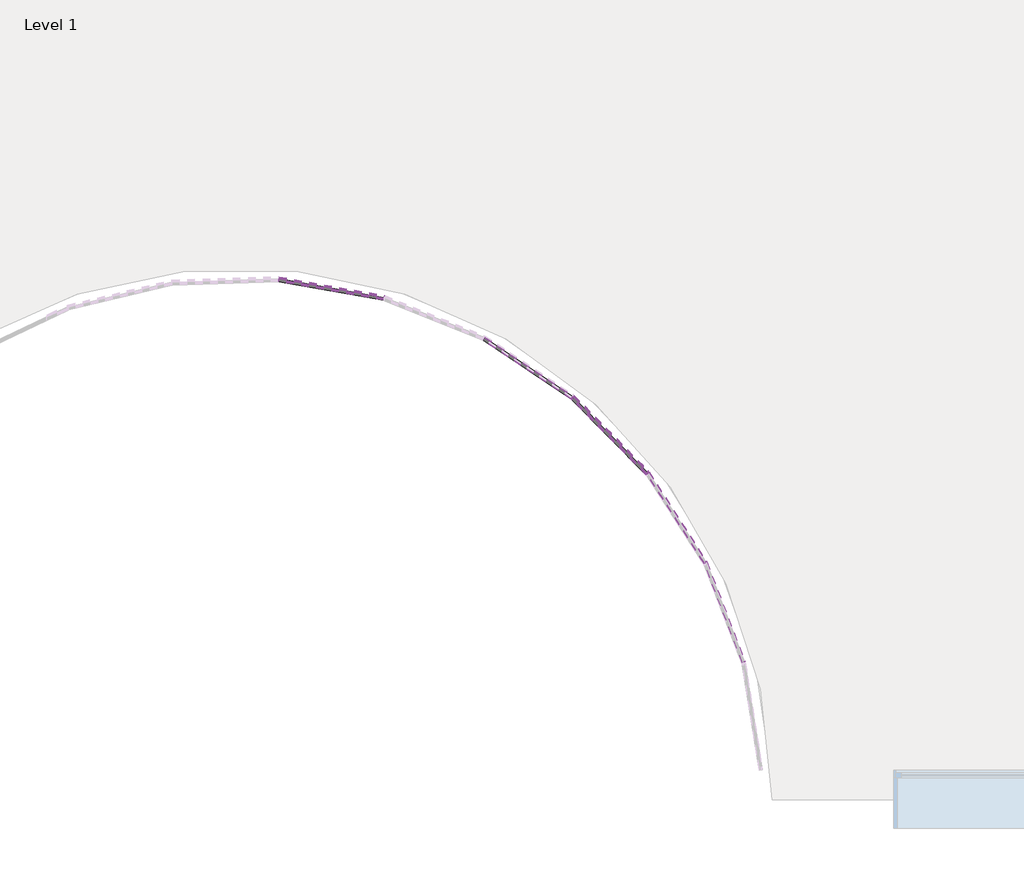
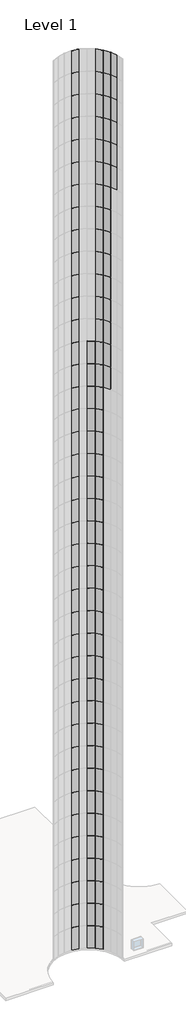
# One storey, part 9 of 19: 128 plates.
"""IFC4 building model written with IfcOpenShell, lengths in millimetres."""

from ifc_helpers import new_model, si_unit, origin, place, context, project, spatial, transform, mapped, element, save
from components import system_panel_glazed_d77d1ebf

model = new_model("IFC4")

# Units and contexts
model_context = context("Model", 3, world=origin())
ifc_project = project(units=[si_unit("LENGTHUNIT", "METRE", prefix="MILLI")], contexts=[model_context])

# Site, building, storey
site = spatial("IfcSite", under=ifc_project)
building = spatial("IfcBuilding", under=site)
storey = spatial("IfcBuildingStorey", under=building, Name="Level 1", Elevation=0.0)

# Plates
placement = place(None, origin())
system_panel_glazed_shape = system_panel_glazed_d77d1ebf(model_context)
element("IfcPlate", 1, ObjectType="System Panel : Glazed", at=placement, inside=storey, context=model_context, shape_type="MappedRepresentation", body=[
    mapped(system_panel_glazed_shape, transform((7239.747729, -19036.0319834, 76200.0), x_axis=(-0.5406806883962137, 0.8412279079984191, 0.0), y_axis=(-0.8412279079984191, -0.5406806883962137, 0.0), z_axis=(0.0, 0.0, 1.0))),
])
element("IfcPlate", 2, ObjectType="System Panel : Glazed", at=placement, inside=storey, context=model_context, shape_type="MappedRepresentation", body=[
    mapped(system_panel_glazed_shape, transform((7239.747729, -19036.0319834, 79248.0), x_axis=(-0.5406806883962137, 0.8412279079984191, 0.0), y_axis=(-0.8412279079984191, -0.5406806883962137, 0.0), z_axis=(0.0, 0.0, 1.0))),
])
element("IfcPlate", 3, ObjectType="System Panel : Glazed", at=placement, inside=storey, context=model_context, shape_type="MappedRepresentation", body=[
    mapped(system_panel_glazed_shape, transform((7239.747729, -19036.0319834, 82296.0), x_axis=(-0.5406806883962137, 0.8412279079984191, 0.0), y_axis=(-0.8412279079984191, -0.5406806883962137, 0.0), z_axis=(0.0, 0.0, 1.0))),
])
element("IfcPlate", 4, ObjectType="System Panel : Glazed", at=placement, inside=storey, context=model_context, shape_type="MappedRepresentation", body=[
    mapped(system_panel_glazed_shape, transform((7239.747729, -19036.0319834, 85344.0), x_axis=(-0.5406806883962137, 0.8412279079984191, 0.0), y_axis=(-0.8412279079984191, -0.5406806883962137, 0.0), z_axis=(0.0, 0.0, 1.0))),
])
element("IfcPlate", 5, ObjectType="System Panel : Glazed", at=placement, inside=storey, context=model_context, shape_type="MappedRepresentation", body=[
    mapped(system_panel_glazed_shape, transform((7239.747729, -19036.0319834, 88392.0), x_axis=(-0.5406806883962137, 0.8412279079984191, 0.0), y_axis=(-0.8412279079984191, -0.5406806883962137, 0.0), z_axis=(0.0, 0.0, 1.0))),
])
element("IfcPlate", 6, ObjectType="System Panel : Glazed", at=placement, inside=storey, context=model_context, shape_type="MappedRepresentation", body=[
    mapped(system_panel_glazed_shape, transform((7239.747729, -19036.0319834, 91440.0), x_axis=(-0.5406806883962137, 0.8412279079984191, 0.0), y_axis=(-0.8412279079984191, -0.5406806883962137, 0.0), z_axis=(0.0, 0.0, 1.0))),
])
element("IfcPlate", 7, ObjectType="System Panel : Glazed", at=placement, inside=storey, context=model_context, shape_type="MappedRepresentation", body=[
    mapped(system_panel_glazed_shape, transform((7239.747729, -19036.0319834, 94488.0), x_axis=(-0.5406806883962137, 0.8412279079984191, 0.0), y_axis=(-0.8412279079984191, -0.5406806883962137, 0.0), z_axis=(0.0, 0.0, 1.0))),
])
element("IfcPlate", 8, ObjectType="System Panel : Glazed", at=placement, inside=storey, context=model_context, shape_type="MappedRepresentation", body=[
    mapped(system_panel_glazed_shape, transform((7239.747729, -19036.0319834, 97536.0), x_axis=(-0.5406806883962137, 0.8412279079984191, 0.0), y_axis=(-0.8412279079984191, -0.5406806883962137, 0.0), z_axis=(0.0, 0.0, 1.0))),
])
element("IfcPlate", 9, ObjectType="System Panel : Glazed", at=placement, inside=storey, context=model_context, shape_type="MappedRepresentation", body=[
    mapped(system_panel_glazed_shape, transform((7239.747729, -19036.0319834, 100584.0), x_axis=(-0.5406806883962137, 0.8412279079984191, 0.0), y_axis=(-0.8412279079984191, -0.5406806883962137, 0.0), z_axis=(0.0, 0.0, 1.0))),
])
element("IfcPlate", 10, ObjectType="System Panel : Glazed", at=placement, inside=storey, context=model_context, shape_type="MappedRepresentation", body=[
    mapped(system_panel_glazed_shape, transform((6671.9279427, -18325.4865679, 0.0), x_axis=(-0.7012698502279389, 0.7128959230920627, 0.0), y_axis=(-0.7128959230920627, -0.7012698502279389, 0.0), z_axis=(0.0, 0.0, 1.0))),
])
element("IfcPlate", 11, ObjectType="System Panel : Glazed", at=placement, inside=storey, context=model_context, shape_type="MappedRepresentation", body=[
    mapped(system_panel_glazed_shape, transform((6671.9279427, -18325.4865679, 3048.0), x_axis=(-0.7012698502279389, 0.7128959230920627, 0.0), y_axis=(-0.7128959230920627, -0.7012698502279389, 0.0), z_axis=(0.0, 0.0, 1.0))),
])
element("IfcPlate", 12, ObjectType="System Panel : Glazed", at=placement, inside=storey, context=model_context, shape_type="MappedRepresentation", body=[
    mapped(system_panel_glazed_shape, transform((6671.9279427, -18325.4865679, 6096.0), x_axis=(-0.7012698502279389, 0.7128959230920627, 0.0), y_axis=(-0.7128959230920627, -0.7012698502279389, 0.0), z_axis=(0.0, 0.0, 1.0))),
])
element("IfcPlate", 13, ObjectType="System Panel : Glazed", at=placement, inside=storey, context=model_context, shape_type="MappedRepresentation", body=[
    mapped(system_panel_glazed_shape, transform((6671.9279427, -18325.4865679, 9144.0), x_axis=(-0.7012698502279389, 0.7128959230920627, 0.0), y_axis=(-0.7128959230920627, -0.7012698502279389, 0.0), z_axis=(0.0, 0.0, 1.0))),
])
element("IfcPlate", 14, ObjectType="System Panel : Glazed", at=placement, inside=storey, context=model_context, shape_type="MappedRepresentation", body=[
    mapped(system_panel_glazed_shape, transform((6671.9279427, -18325.4865679, 12192.0), x_axis=(-0.7012698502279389, 0.7128959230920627, 0.0), y_axis=(-0.7128959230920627, -0.7012698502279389, 0.0), z_axis=(0.0, 0.0, 1.0))),
])
element("IfcPlate", 15, ObjectType="System Panel : Glazed", at=placement, inside=storey, context=model_context, shape_type="MappedRepresentation", body=[
    mapped(system_panel_glazed_shape, transform((6671.9279427, -18325.4865679, 15240.0), x_axis=(-0.7012698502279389, 0.7128959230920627, 0.0), y_axis=(-0.7128959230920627, -0.7012698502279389, 0.0), z_axis=(0.0, 0.0, 1.0))),
])
element("IfcPlate", 16, ObjectType="System Panel : Glazed", at=placement, inside=storey, context=model_context, shape_type="MappedRepresentation", body=[
    mapped(system_panel_glazed_shape, transform((6671.9279427, -18325.4865679, 18288.0), x_axis=(-0.7012698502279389, 0.7128959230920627, 0.0), y_axis=(-0.7128959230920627, -0.7012698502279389, 0.0), z_axis=(0.0, 0.0, 1.0))),
])
element("IfcPlate", 17, ObjectType="System Panel : Glazed", at=placement, inside=storey, context=model_context, shape_type="MappedRepresentation", body=[
    mapped(system_panel_glazed_shape, transform((6671.9279427, -18325.4865679, 21336.0), x_axis=(-0.7012698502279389, 0.7128959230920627, 0.0), y_axis=(-0.7128959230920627, -0.7012698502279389, 0.0), z_axis=(0.0, 0.0, 1.0))),
])
element("IfcPlate", 18, ObjectType="System Panel : Glazed", at=placement, inside=storey, context=model_context, shape_type="MappedRepresentation", body=[
    mapped(system_panel_glazed_shape, transform((6671.9279427, -18325.4865679, 24384.0), x_axis=(-0.7012698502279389, 0.7128959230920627, 0.0), y_axis=(-0.7128959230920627, -0.7012698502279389, 0.0), z_axis=(0.0, 0.0, 1.0))),
])
element("IfcPlate", 19, ObjectType="System Panel : Glazed", at=placement, inside=storey, context=model_context, shape_type="MappedRepresentation", body=[
    mapped(system_panel_glazed_shape, transform((6671.9279427, -18325.4865679, 27432.0), x_axis=(-0.7012698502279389, 0.7128959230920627, 0.0), y_axis=(-0.7128959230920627, -0.7012698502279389, 0.0), z_axis=(0.0, 0.0, 1.0))),
])
element("IfcPlate", 20, ObjectType="System Panel : Glazed", at=placement, inside=storey, context=model_context, shape_type="MappedRepresentation", body=[
    mapped(system_panel_glazed_shape, transform((6671.9279427, -18325.4865679, 30480.0), x_axis=(-0.7012698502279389, 0.7128959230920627, 0.0), y_axis=(-0.7128959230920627, -0.7012698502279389, 0.0), z_axis=(0.0, 0.0, 1.0))),
])
element("IfcPlate", 21, ObjectType="System Panel : Glazed", at=placement, inside=storey, context=model_context, shape_type="MappedRepresentation", body=[
    mapped(system_panel_glazed_shape, transform((6671.9279427, -18325.4865679, 33528.0), x_axis=(-0.7012698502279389, 0.7128959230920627, 0.0), y_axis=(-0.7128959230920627, -0.7012698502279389, 0.0), z_axis=(0.0, 0.0, 1.0))),
])
element("IfcPlate", 22, ObjectType="System Panel : Glazed", at=placement, inside=storey, context=model_context, shape_type="MappedRepresentation", body=[
    mapped(system_panel_glazed_shape, transform((6671.9279427, -18325.4865679, 36576.0), x_axis=(-0.7012698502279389, 0.7128959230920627, 0.0), y_axis=(-0.7128959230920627, -0.7012698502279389, 0.0), z_axis=(0.0, 0.0, 1.0))),
])
element("IfcPlate", 23, ObjectType="System Panel : Glazed", at=placement, inside=storey, context=model_context, shape_type="MappedRepresentation", body=[
    mapped(system_panel_glazed_shape, transform((6671.9279427, -18325.4865679, 39624.0), x_axis=(-0.7012698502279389, 0.7128959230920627, 0.0), y_axis=(-0.7128959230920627, -0.7012698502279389, 0.0), z_axis=(0.0, 0.0, 1.0))),
])
element("IfcPlate", 24, ObjectType="System Panel : Glazed", at=placement, inside=storey, context=model_context, shape_type="MappedRepresentation", body=[
    mapped(system_panel_glazed_shape, transform((6671.9279427, -18325.4865679, 42672.0), x_axis=(-0.7012698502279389, 0.7128959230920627, 0.0), y_axis=(-0.7128959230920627, -0.7012698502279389, 0.0), z_axis=(0.0, 0.0, 1.0))),
])
element("IfcPlate", 25, ObjectType="System Panel : Glazed", at=placement, inside=storey, context=model_context, shape_type="MappedRepresentation", body=[
    mapped(system_panel_glazed_shape, transform((6671.9279427, -18325.4865679, 45720.0), x_axis=(-0.7012698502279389, 0.7128959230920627, 0.0), y_axis=(-0.7128959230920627, -0.7012698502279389, 0.0), z_axis=(0.0, 0.0, 1.0))),
])
element("IfcPlate", 26, ObjectType="System Panel : Glazed", at=placement, inside=storey, context=model_context, shape_type="MappedRepresentation", body=[
    mapped(system_panel_glazed_shape, transform((6671.9279427, -18325.4865679, 48768.0), x_axis=(-0.7012698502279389, 0.7128959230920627, 0.0), y_axis=(-0.7128959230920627, -0.7012698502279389, 0.0), z_axis=(0.0, 0.0, 1.0))),
])
element("IfcPlate", 27, ObjectType="System Panel : Glazed", at=placement, inside=storey, context=model_context, shape_type="MappedRepresentation", body=[
    mapped(system_panel_glazed_shape, transform((6671.9279427, -18325.4865679, 51816.0), x_axis=(-0.7012698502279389, 0.7128959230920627, 0.0), y_axis=(-0.7128959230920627, -0.7012698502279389, 0.0), z_axis=(0.0, 0.0, 1.0))),
])
element("IfcPlate", 28, ObjectType="System Panel : Glazed", at=placement, inside=storey, context=model_context, shape_type="MappedRepresentation", body=[
    mapped(system_panel_glazed_shape, transform((6671.9279427, -18325.4865679, 54864.0), x_axis=(-0.7012698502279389, 0.7128959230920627, 0.0), y_axis=(-0.7128959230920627, -0.7012698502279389, 0.0), z_axis=(0.0, 0.0, 1.0))),
])
element("IfcPlate", 29, ObjectType="System Panel : Glazed", at=placement, inside=storey, context=model_context, shape_type="MappedRepresentation", body=[
    mapped(system_panel_glazed_shape, transform((6671.9279427, -18325.4865679, 57912.0), x_axis=(-0.7012698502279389, 0.7128959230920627, 0.0), y_axis=(-0.7128959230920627, -0.7012698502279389, 0.0), z_axis=(0.0, 0.0, 1.0))),
])
element("IfcPlate", 30, ObjectType="System Panel : Glazed", at=placement, inside=storey, context=model_context, shape_type="MappedRepresentation", body=[
    mapped(system_panel_glazed_shape, transform((6671.9279427, -18325.4865679, 60960.0), x_axis=(-0.7012698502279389, 0.7128959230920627, 0.0), y_axis=(-0.7128959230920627, -0.7012698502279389, 0.0), z_axis=(0.0, 0.0, 1.0))),
])
element("IfcPlate", 31, ObjectType="System Panel : Glazed", at=placement, inside=storey, context=model_context, shape_type="MappedRepresentation", body=[
    mapped(system_panel_glazed_shape, transform((6671.9279427, -18325.4865679, 64008.0), x_axis=(-0.7012698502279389, 0.7128959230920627, 0.0), y_axis=(-0.7128959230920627, -0.7012698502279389, 0.0), z_axis=(0.0, 0.0, 1.0))),
])
element("IfcPlate", 32, ObjectType="System Panel : Glazed", at=placement, inside=storey, context=model_context, shape_type="MappedRepresentation", body=[
    mapped(system_panel_glazed_shape, transform((6671.9279427, -18325.4865679, 67056.0), x_axis=(-0.7012698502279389, 0.7128959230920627, 0.0), y_axis=(-0.7128959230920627, -0.7012698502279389, 0.0), z_axis=(0.0, 0.0, 1.0))),
])
element("IfcPlate", 33, ObjectType="System Panel : Glazed", at=placement, inside=storey, context=model_context, shape_type="MappedRepresentation", body=[
    mapped(system_panel_glazed_shape, transform((6671.9279427, -18325.4865679, 70104.0), x_axis=(-0.7012698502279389, 0.7128959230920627, 0.0), y_axis=(-0.7128959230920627, -0.7012698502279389, 0.0), z_axis=(0.0, 0.0, 1.0))),
])
element("IfcPlate", 34, ObjectType="System Panel : Glazed", at=placement, inside=storey, context=model_context, shape_type="MappedRepresentation", body=[
    mapped(system_panel_glazed_shape, transform((6671.9279427, -18325.4865679, 73152.0), x_axis=(-0.7012698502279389, 0.7128959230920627, 0.0), y_axis=(-0.7128959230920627, -0.7012698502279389, 0.0), z_axis=(0.0, 0.0, 1.0))),
])
element("IfcPlate", 35, ObjectType="System Panel : Glazed", at=placement, inside=storey, context=model_context, shape_type="MappedRepresentation", body=[
    mapped(system_panel_glazed_shape, transform((6671.9279427, -18325.4865679, 76200.0), x_axis=(-0.7012698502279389, 0.7128959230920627, 0.0), y_axis=(-0.7128959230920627, -0.7012698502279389, 0.0), z_axis=(0.0, 0.0, 1.0))),
])
element("IfcPlate", 36, ObjectType="System Panel : Glazed", at=placement, inside=storey, context=model_context, shape_type="MappedRepresentation", body=[
    mapped(system_panel_glazed_shape, transform((6671.9279427, -18325.4865679, 79248.0), x_axis=(-0.7012698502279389, 0.7128959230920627, 0.0), y_axis=(-0.7128959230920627, -0.7012698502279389, 0.0), z_axis=(0.0, 0.0, 1.0))),
])
element("IfcPlate", 37, ObjectType="System Panel : Glazed", at=placement, inside=storey, context=model_context, shape_type="MappedRepresentation", body=[
    mapped(system_panel_glazed_shape, transform((6671.9279427, -18325.4865679, 82296.0), x_axis=(-0.7012698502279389, 0.7128959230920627, 0.0), y_axis=(-0.7128959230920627, -0.7012698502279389, 0.0), z_axis=(0.0, 0.0, 1.0))),
])
element("IfcPlate", 38, ObjectType="System Panel : Glazed", at=placement, inside=storey, context=model_context, shape_type="MappedRepresentation", body=[
    mapped(system_panel_glazed_shape, transform((6671.9279427, -18325.4865679, 85344.0), x_axis=(-0.7012698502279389, 0.7128959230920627, 0.0), y_axis=(-0.7128959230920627, -0.7012698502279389, 0.0), z_axis=(0.0, 0.0, 1.0))),
])
element("IfcPlate", 39, ObjectType="System Panel : Glazed", at=placement, inside=storey, context=model_context, shape_type="MappedRepresentation", body=[
    mapped(system_panel_glazed_shape, transform((6671.9279427, -18325.4865679, 88392.0), x_axis=(-0.7012698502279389, 0.7128959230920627, 0.0), y_axis=(-0.7128959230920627, -0.7012698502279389, 0.0), z_axis=(0.0, 0.0, 1.0))),
])
element("IfcPlate", 40, ObjectType="System Panel : Glazed", at=placement, inside=storey, context=model_context, shape_type="MappedRepresentation", body=[
    mapped(system_panel_glazed_shape, transform((6671.9279427, -18325.4865679, 91440.0), x_axis=(-0.7012698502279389, 0.7128959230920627, 0.0), y_axis=(-0.7128959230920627, -0.7012698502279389, 0.0), z_axis=(0.0, 0.0, 1.0))),
])
element("IfcPlate", 41, ObjectType="System Panel : Glazed", at=placement, inside=storey, context=model_context, shape_type="MappedRepresentation", body=[
    mapped(system_panel_glazed_shape, transform((6671.9279427, -18325.4865679, 94488.0), x_axis=(-0.7012698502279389, 0.7128959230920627, 0.0), y_axis=(-0.7128959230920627, -0.7012698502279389, 0.0), z_axis=(0.0, 0.0, 1.0))),
])
element("IfcPlate", 42, ObjectType="System Panel : Glazed", at=placement, inside=storey, context=model_context, shape_type="MappedRepresentation", body=[
    mapped(system_panel_glazed_shape, transform((6671.9279427, -18325.4865679, 97536.0), x_axis=(-0.7012698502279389, 0.7128959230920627, 0.0), y_axis=(-0.7128959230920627, -0.7012698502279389, 0.0), z_axis=(0.0, 0.0, 1.0))),
])
element("IfcPlate", 43, ObjectType="System Panel : Glazed", at=placement, inside=storey, context=model_context, shape_type="MappedRepresentation", body=[
    mapped(system_panel_glazed_shape, transform((6671.9279427, -18325.4865679, 100584.0), x_axis=(-0.7012698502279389, 0.7128959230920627, 0.0), y_axis=(-0.7128959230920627, -0.7012698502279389, 0.0), z_axis=(0.0, 0.0, 1.0))),
])
element("IfcPlate", 44, ObjectType="System Panel : Glazed", at=placement, inside=storey, context=model_context, shape_type="MappedRepresentation", body=[
    mapped(system_panel_glazed_shape, transform((5970.8142039, -17746.061316, 0.0), x_axis=(-0.8322247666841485, 0.5544383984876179, 0.0), y_axis=(-0.5544383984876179, -0.8322247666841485, 0.0), z_axis=(0.0, 0.0, 1.0))),
])
element("IfcPlate", 45, ObjectType="System Panel : Glazed", at=placement, inside=storey, context=model_context, shape_type="MappedRepresentation", body=[
    mapped(system_panel_glazed_shape, transform((5970.8142039, -17746.061316, 3048.0), x_axis=(-0.8322247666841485, 0.5544383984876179, 0.0), y_axis=(-0.5544383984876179, -0.8322247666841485, 0.0), z_axis=(0.0, 0.0, 1.0))),
])
element("IfcPlate", 46, ObjectType="System Panel : Glazed", at=placement, inside=storey, context=model_context, shape_type="MappedRepresentation", body=[
    mapped(system_panel_glazed_shape, transform((5970.8142039, -17746.061316, 6096.0), x_axis=(-0.8322247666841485, 0.5544383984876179, 0.0), y_axis=(-0.5544383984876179, -0.8322247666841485, 0.0), z_axis=(0.0, 0.0, 1.0))),
])
element("IfcPlate", 47, ObjectType="System Panel : Glazed", at=placement, inside=storey, context=model_context, shape_type="MappedRepresentation", body=[
    mapped(system_panel_glazed_shape, transform((5970.8142039, -17746.061316, 9144.0), x_axis=(-0.8322247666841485, 0.5544383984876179, 0.0), y_axis=(-0.5544383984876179, -0.8322247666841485, 0.0), z_axis=(0.0, 0.0, 1.0))),
])
element("IfcPlate", 48, ObjectType="System Panel : Glazed", at=placement, inside=storey, context=model_context, shape_type="MappedRepresentation", body=[
    mapped(system_panel_glazed_shape, transform((5970.8142039, -17746.061316, 12192.0), x_axis=(-0.8322247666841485, 0.5544383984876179, 0.0), y_axis=(-0.5544383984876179, -0.8322247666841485, 0.0), z_axis=(0.0, 0.0, 1.0))),
])
element("IfcPlate", 49, ObjectType="System Panel : Glazed", at=placement, inside=storey, context=model_context, shape_type="MappedRepresentation", body=[
    mapped(system_panel_glazed_shape, transform((5970.8142039, -17746.061316, 15240.0), x_axis=(-0.8322247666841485, 0.5544383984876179, 0.0), y_axis=(-0.5544383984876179, -0.8322247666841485, 0.0), z_axis=(0.0, 0.0, 1.0))),
])
element("IfcPlate", 50, ObjectType="System Panel : Glazed", at=placement, inside=storey, context=model_context, shape_type="MappedRepresentation", body=[
    mapped(system_panel_glazed_shape, transform((5970.8142039, -17746.061316, 18288.0), x_axis=(-0.8322247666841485, 0.5544383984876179, 0.0), y_axis=(-0.5544383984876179, -0.8322247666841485, 0.0), z_axis=(0.0, 0.0, 1.0))),
])
element("IfcPlate", 51, ObjectType="System Panel : Glazed", at=placement, inside=storey, context=model_context, shape_type="MappedRepresentation", body=[
    mapped(system_panel_glazed_shape, transform((5970.8142039, -17746.061316, 21336.0), x_axis=(-0.8322247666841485, 0.5544383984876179, 0.0), y_axis=(-0.5544383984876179, -0.8322247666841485, 0.0), z_axis=(0.0, 0.0, 1.0))),
])
element("IfcPlate", 52, ObjectType="System Panel : Glazed", at=placement, inside=storey, context=model_context, shape_type="MappedRepresentation", body=[
    mapped(system_panel_glazed_shape, transform((5970.8142039, -17746.061316, 24384.0), x_axis=(-0.8322247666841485, 0.5544383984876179, 0.0), y_axis=(-0.5544383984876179, -0.8322247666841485, 0.0), z_axis=(0.0, 0.0, 1.0))),
])
element("IfcPlate", 53, ObjectType="System Panel : Glazed", at=placement, inside=storey, context=model_context, shape_type="MappedRepresentation", body=[
    mapped(system_panel_glazed_shape, transform((5970.8142039, -17746.061316, 27432.0), x_axis=(-0.8322247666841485, 0.5544383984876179, 0.0), y_axis=(-0.5544383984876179, -0.8322247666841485, 0.0), z_axis=(0.0, 0.0, 1.0))),
])
element("IfcPlate", 54, ObjectType="System Panel : Glazed", at=placement, inside=storey, context=model_context, shape_type="MappedRepresentation", body=[
    mapped(system_panel_glazed_shape, transform((5970.8142039, -17746.061316, 30480.0), x_axis=(-0.8322247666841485, 0.5544383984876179, 0.0), y_axis=(-0.5544383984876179, -0.8322247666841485, 0.0), z_axis=(0.0, 0.0, 1.0))),
])
element("IfcPlate", 55, ObjectType="System Panel : Glazed", at=placement, inside=storey, context=model_context, shape_type="MappedRepresentation", body=[
    mapped(system_panel_glazed_shape, transform((5970.8142039, -17746.061316, 33528.0), x_axis=(-0.8322247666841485, 0.5544383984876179, 0.0), y_axis=(-0.5544383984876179, -0.8322247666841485, 0.0), z_axis=(0.0, 0.0, 1.0))),
])
element("IfcPlate", 56, ObjectType="System Panel : Glazed", at=placement, inside=storey, context=model_context, shape_type="MappedRepresentation", body=[
    mapped(system_panel_glazed_shape, transform((5970.8142039, -17746.061316, 36576.0), x_axis=(-0.8322247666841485, 0.5544383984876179, 0.0), y_axis=(-0.5544383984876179, -0.8322247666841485, 0.0), z_axis=(0.0, 0.0, 1.0))),
])
element("IfcPlate", 57, ObjectType="System Panel : Glazed", at=placement, inside=storey, context=model_context, shape_type="MappedRepresentation", body=[
    mapped(system_panel_glazed_shape, transform((5970.8142039, -17746.061316, 39624.0), x_axis=(-0.8322247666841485, 0.5544383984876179, 0.0), y_axis=(-0.5544383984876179, -0.8322247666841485, 0.0), z_axis=(0.0, 0.0, 1.0))),
])
element("IfcPlate", 58, ObjectType="System Panel : Glazed", at=placement, inside=storey, context=model_context, shape_type="MappedRepresentation", body=[
    mapped(system_panel_glazed_shape, transform((5970.8142039, -17746.061316, 42672.0), x_axis=(-0.8322247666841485, 0.5544383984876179, 0.0), y_axis=(-0.5544383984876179, -0.8322247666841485, 0.0), z_axis=(0.0, 0.0, 1.0))),
])
element("IfcPlate", 59, ObjectType="System Panel : Glazed", at=placement, inside=storey, context=model_context, shape_type="MappedRepresentation", body=[
    mapped(system_panel_glazed_shape, transform((5970.8142039, -17746.061316, 45720.0), x_axis=(-0.8322247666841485, 0.5544383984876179, 0.0), y_axis=(-0.5544383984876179, -0.8322247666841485, 0.0), z_axis=(0.0, 0.0, 1.0))),
])
element("IfcPlate", 60, ObjectType="System Panel : Glazed", at=placement, inside=storey, context=model_context, shape_type="MappedRepresentation", body=[
    mapped(system_panel_glazed_shape, transform((5970.8142039, -17746.061316, 48768.0), x_axis=(-0.8322247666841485, 0.5544383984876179, 0.0), y_axis=(-0.5544383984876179, -0.8322247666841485, 0.0), z_axis=(0.0, 0.0, 1.0))),
])
element("IfcPlate", 61, ObjectType="System Panel : Glazed", at=placement, inside=storey, context=model_context, shape_type="MappedRepresentation", body=[
    mapped(system_panel_glazed_shape, transform((5970.8142039, -17746.061316, 51816.0), x_axis=(-0.8322247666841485, 0.5544383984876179, 0.0), y_axis=(-0.5544383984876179, -0.8322247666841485, 0.0), z_axis=(0.0, 0.0, 1.0))),
])
element("IfcPlate", 62, ObjectType="System Panel : Glazed", at=placement, inside=storey, context=model_context, shape_type="MappedRepresentation", body=[
    mapped(system_panel_glazed_shape, transform((5970.8142039, -17746.061316, 54864.0), x_axis=(-0.8322247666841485, 0.5544383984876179, 0.0), y_axis=(-0.5544383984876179, -0.8322247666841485, 0.0), z_axis=(0.0, 0.0, 1.0))),
])
element("IfcPlate", 63, ObjectType="System Panel : Glazed", at=placement, inside=storey, context=model_context, shape_type="MappedRepresentation", body=[
    mapped(system_panel_glazed_shape, transform((5970.8142039, -17746.061316, 57912.0), x_axis=(-0.8322247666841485, 0.5544383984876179, 0.0), y_axis=(-0.5544383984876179, -0.8322247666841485, 0.0), z_axis=(0.0, 0.0, 1.0))),
])
element("IfcPlate", 64, ObjectType="System Panel : Glazed", at=placement, inside=storey, context=model_context, shape_type="MappedRepresentation", body=[
    mapped(system_panel_glazed_shape, transform((5970.8142039, -17746.061316, 60960.0), x_axis=(-0.8322247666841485, 0.5544383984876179, 0.0), y_axis=(-0.5544383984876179, -0.8322247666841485, 0.0), z_axis=(0.0, 0.0, 1.0))),
])
element("IfcPlate", 65, ObjectType="System Panel : Glazed", at=placement, inside=storey, context=model_context, shape_type="MappedRepresentation", body=[
    mapped(system_panel_glazed_shape, transform((5970.8142039, -17746.061316, 64008.0), x_axis=(-0.8322247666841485, 0.5544383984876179, 0.0), y_axis=(-0.5544383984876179, -0.8322247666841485, 0.0), z_axis=(0.0, 0.0, 1.0))),
])
element("IfcPlate", 66, ObjectType="System Panel : Glazed", at=placement, inside=storey, context=model_context, shape_type="MappedRepresentation", body=[
    mapped(system_panel_glazed_shape, transform((5970.8142039, -17746.061316, 67056.0), x_axis=(-0.8322247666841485, 0.5544383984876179, 0.0), y_axis=(-0.5544383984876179, -0.8322247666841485, 0.0), z_axis=(0.0, 0.0, 1.0))),
])
element("IfcPlate", 67, ObjectType="System Panel : Glazed", at=placement, inside=storey, context=model_context, shape_type="MappedRepresentation", body=[
    mapped(system_panel_glazed_shape, transform((5970.8142039, -17746.061316, 70104.0), x_axis=(-0.8322247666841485, 0.5544383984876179, 0.0), y_axis=(-0.5544383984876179, -0.8322247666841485, 0.0), z_axis=(0.0, 0.0, 1.0))),
])
element("IfcPlate", 68, ObjectType="System Panel : Glazed", at=placement, inside=storey, context=model_context, shape_type="MappedRepresentation", body=[
    mapped(system_panel_glazed_shape, transform((5970.8142039, -17746.061316, 73152.0), x_axis=(-0.8322247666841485, 0.5544383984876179, 0.0), y_axis=(-0.5544383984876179, -0.8322247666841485, 0.0), z_axis=(0.0, 0.0, 1.0))),
])
element("IfcPlate", 69, ObjectType="System Panel : Glazed", at=placement, inside=storey, context=model_context, shape_type="MappedRepresentation", body=[
    mapped(system_panel_glazed_shape, transform((5970.8142039, -17746.061316, 76200.0), x_axis=(-0.8322247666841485, 0.5544383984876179, 0.0), y_axis=(-0.5544383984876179, -0.8322247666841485, 0.0), z_axis=(0.0, 0.0, 1.0))),
])
element("IfcPlate", 70, ObjectType="System Panel : Glazed", at=placement, inside=storey, context=model_context, shape_type="MappedRepresentation", body=[
    mapped(system_panel_glazed_shape, transform((5970.8142039, -17746.061316, 79248.0), x_axis=(-0.8322247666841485, 0.5544383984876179, 0.0), y_axis=(-0.5544383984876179, -0.8322247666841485, 0.0), z_axis=(0.0, 0.0, 1.0))),
])
element("IfcPlate", 71, ObjectType="System Panel : Glazed", at=placement, inside=storey, context=model_context, shape_type="MappedRepresentation", body=[
    mapped(system_panel_glazed_shape, transform((4291.5961904, -17071.9370863, 0.0), x_axis=(-0.9845824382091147, 0.17492118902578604, 0.0), y_axis=(-0.17492118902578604, -0.9845824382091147, 0.0), z_axis=(0.0, 0.0, 1.0))),
])
element("IfcPlate", 72, ObjectType="System Panel : Glazed", at=placement, inside=storey, context=model_context, shape_type="MappedRepresentation", body=[
    mapped(system_panel_glazed_shape, transform((4291.5961904, -17071.9370863, 3048.0), x_axis=(-0.9845824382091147, 0.17492118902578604, 0.0), y_axis=(-0.17492118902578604, -0.9845824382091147, 0.0), z_axis=(0.0, 0.0, 1.0))),
])
element("IfcPlate", 73, ObjectType="System Panel : Glazed", at=placement, inside=storey, context=model_context, shape_type="MappedRepresentation", body=[
    mapped(system_panel_glazed_shape, transform((4291.5961904, -17071.9370863, 6096.0), x_axis=(-0.9845824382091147, 0.17492118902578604, 0.0), y_axis=(-0.17492118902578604, -0.9845824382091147, 0.0), z_axis=(0.0, 0.0, 1.0))),
])
element("IfcPlate", 74, ObjectType="System Panel : Glazed", at=placement, inside=storey, context=model_context, shape_type="MappedRepresentation", body=[
    mapped(system_panel_glazed_shape, transform((4291.5961904, -17071.9370863, 9144.0), x_axis=(-0.9845824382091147, 0.17492118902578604, 0.0), y_axis=(-0.17492118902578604, -0.9845824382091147, 0.0), z_axis=(0.0, 0.0, 1.0))),
])
element("IfcPlate", 75, ObjectType="System Panel : Glazed", at=placement, inside=storey, context=model_context, shape_type="MappedRepresentation", body=[
    mapped(system_panel_glazed_shape, transform((4291.5961904, -17071.9370863, 12192.0), x_axis=(-0.9845824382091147, 0.17492118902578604, 0.0), y_axis=(-0.17492118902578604, -0.9845824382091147, 0.0), z_axis=(0.0, 0.0, 1.0))),
])
element("IfcPlate", 76, ObjectType="System Panel : Glazed", at=placement, inside=storey, context=model_context, shape_type="MappedRepresentation", body=[
    mapped(system_panel_glazed_shape, transform((4291.5961904, -17071.9370863, 15240.0), x_axis=(-0.9845824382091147, 0.17492118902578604, 0.0), y_axis=(-0.17492118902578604, -0.9845824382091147, 0.0), z_axis=(0.0, 0.0, 1.0))),
])
element("IfcPlate", 77, ObjectType="System Panel : Glazed", at=placement, inside=storey, context=model_context, shape_type="MappedRepresentation", body=[
    mapped(system_panel_glazed_shape, transform((4291.5961904, -17071.9370863, 18288.0), x_axis=(-0.9845824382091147, 0.17492118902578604, 0.0), y_axis=(-0.17492118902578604, -0.9845824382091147, 0.0), z_axis=(0.0, 0.0, 1.0))),
])
element("IfcPlate", 78, ObjectType="System Panel : Glazed", at=placement, inside=storey, context=model_context, shape_type="MappedRepresentation", body=[
    mapped(system_panel_glazed_shape, transform((4291.5961904, -17071.9370863, 21336.0), x_axis=(-0.9845824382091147, 0.17492118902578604, 0.0), y_axis=(-0.17492118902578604, -0.9845824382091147, 0.0), z_axis=(0.0, 0.0, 1.0))),
])
element("IfcPlate", 79, ObjectType="System Panel : Glazed", at=placement, inside=storey, context=model_context, shape_type="MappedRepresentation", body=[
    mapped(system_panel_glazed_shape, transform((4291.5961904, -17071.9370863, 24384.0), x_axis=(-0.9845824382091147, 0.17492118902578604, 0.0), y_axis=(-0.17492118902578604, -0.9845824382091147, 0.0), z_axis=(0.0, 0.0, 1.0))),
])
element("IfcPlate", 80, ObjectType="System Panel : Glazed", at=placement, inside=storey, context=model_context, shape_type="MappedRepresentation", body=[
    mapped(system_panel_glazed_shape, transform((4291.5961904, -17071.9370863, 27432.0), x_axis=(-0.9845824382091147, 0.17492118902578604, 0.0), y_axis=(-0.17492118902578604, -0.9845824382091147, 0.0), z_axis=(0.0, 0.0, 1.0))),
])
element("IfcPlate", 81, ObjectType="System Panel : Glazed", at=placement, inside=storey, context=model_context, shape_type="MappedRepresentation", body=[
    mapped(system_panel_glazed_shape, transform((4291.5961904, -17071.9370863, 30480.0), x_axis=(-0.9845824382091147, 0.17492118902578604, 0.0), y_axis=(-0.17492118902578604, -0.9845824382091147, 0.0), z_axis=(0.0, 0.0, 1.0))),
])
element("IfcPlate", 82, ObjectType="System Panel : Glazed", at=placement, inside=storey, context=model_context, shape_type="MappedRepresentation", body=[
    mapped(system_panel_glazed_shape, transform((4291.5961904, -17071.9370863, 33528.0), x_axis=(-0.9845824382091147, 0.17492118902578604, 0.0), y_axis=(-0.17492118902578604, -0.9845824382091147, 0.0), z_axis=(0.0, 0.0, 1.0))),
])
element("IfcPlate", 83, ObjectType="System Panel : Glazed", at=placement, inside=storey, context=model_context, shape_type="MappedRepresentation", body=[
    mapped(system_panel_glazed_shape, transform((4291.5961904, -17071.9370863, 36576.0), x_axis=(-0.9845824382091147, 0.17492118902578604, 0.0), y_axis=(-0.17492118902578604, -0.9845824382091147, 0.0), z_axis=(0.0, 0.0, 1.0))),
])
element("IfcPlate", 84, ObjectType="System Panel : Glazed", at=placement, inside=storey, context=model_context, shape_type="MappedRepresentation", body=[
    mapped(system_panel_glazed_shape, transform((4291.5961904, -17071.9370863, 39624.0), x_axis=(-0.9845824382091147, 0.17492118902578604, 0.0), y_axis=(-0.17492118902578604, -0.9845824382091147, 0.0), z_axis=(0.0, 0.0, 1.0))),
])
element("IfcPlate", 85, ObjectType="System Panel : Glazed", at=placement, inside=storey, context=model_context, shape_type="MappedRepresentation", body=[
    mapped(system_panel_glazed_shape, transform((4291.5961904, -17071.9370863, 42672.0), x_axis=(-0.9845824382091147, 0.17492118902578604, 0.0), y_axis=(-0.17492118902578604, -0.9845824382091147, 0.0), z_axis=(0.0, 0.0, 1.0))),
])
element("IfcPlate", 86, ObjectType="System Panel : Glazed", at=placement, inside=storey, context=model_context, shape_type="MappedRepresentation", body=[
    mapped(system_panel_glazed_shape, transform((4291.5961904, -17071.9370863, 45720.0), x_axis=(-0.9845824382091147, 0.17492118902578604, 0.0), y_axis=(-0.17492118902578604, -0.9845824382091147, 0.0), z_axis=(0.0, 0.0, 1.0))),
])
element("IfcPlate", 87, ObjectType="System Panel : Glazed", at=placement, inside=storey, context=model_context, shape_type="MappedRepresentation", body=[
    mapped(system_panel_glazed_shape, transform((4291.5961904, -17071.9370863, 48768.0), x_axis=(-0.9845824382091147, 0.17492118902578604, 0.0), y_axis=(-0.17492118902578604, -0.9845824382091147, 0.0), z_axis=(0.0, 0.0, 1.0))),
])
element("IfcPlate", 88, ObjectType="System Panel : Glazed", at=placement, inside=storey, context=model_context, shape_type="MappedRepresentation", body=[
    mapped(system_panel_glazed_shape, transform((4291.5961904, -17071.9370863, 51816.0), x_axis=(-0.9845824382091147, 0.17492118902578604, 0.0), y_axis=(-0.17492118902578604, -0.9845824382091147, 0.0), z_axis=(0.0, 0.0, 1.0))),
])
element("IfcPlate", 89, ObjectType="System Panel : Glazed", at=placement, inside=storey, context=model_context, shape_type="MappedRepresentation", body=[
    mapped(system_panel_glazed_shape, transform((4291.5961904, -17071.9370863, 54864.0), x_axis=(-0.9845824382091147, 0.17492118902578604, 0.0), y_axis=(-0.17492118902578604, -0.9845824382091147, 0.0), z_axis=(0.0, 0.0, 1.0))),
])
element("IfcPlate", 90, ObjectType="System Panel : Glazed", at=placement, inside=storey, context=model_context, shape_type="MappedRepresentation", body=[
    mapped(system_panel_glazed_shape, transform((4291.5961904, -17071.9370863, 57912.0), x_axis=(-0.9845824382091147, 0.17492118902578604, 0.0), y_axis=(-0.17492118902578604, -0.9845824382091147, 0.0), z_axis=(0.0, 0.0, 1.0))),
])
element("IfcPlate", 91, ObjectType="System Panel : Glazed", at=placement, inside=storey, context=model_context, shape_type="MappedRepresentation", body=[
    mapped(system_panel_glazed_shape, transform((4291.5961904, -17071.9370863, 60960.0), x_axis=(-0.9845824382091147, 0.17492118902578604, 0.0), y_axis=(-0.17492118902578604, -0.9845824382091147, 0.0), z_axis=(0.0, 0.0, 1.0))),
])
element("IfcPlate", 92, ObjectType="System Panel : Glazed", at=placement, inside=storey, context=model_context, shape_type="MappedRepresentation", body=[
    mapped(system_panel_glazed_shape, transform((4291.5961904, -17071.9370863, 64008.0), x_axis=(-0.9845824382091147, 0.17492118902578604, 0.0), y_axis=(-0.17492118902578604, -0.9845824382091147, 0.0), z_axis=(0.0, 0.0, 1.0))),
])
element("IfcPlate", 93, ObjectType="System Panel : Glazed", at=placement, inside=storey, context=model_context, shape_type="MappedRepresentation", body=[
    mapped(system_panel_glazed_shape, transform((4291.5961904, -17071.9370863, 67056.0), x_axis=(-0.9845824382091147, 0.17492118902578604, 0.0), y_axis=(-0.17492118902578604, -0.9845824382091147, 0.0), z_axis=(0.0, 0.0, 1.0))),
])
element("IfcPlate", 94, ObjectType="System Panel : Glazed", at=placement, inside=storey, context=model_context, shape_type="MappedRepresentation", body=[
    mapped(system_panel_glazed_shape, transform((4291.5961904, -17071.9370863, 70104.0), x_axis=(-0.9845824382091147, 0.17492118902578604, 0.0), y_axis=(-0.17492118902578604, -0.9845824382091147, 0.0), z_axis=(0.0, 0.0, 1.0))),
])
element("IfcPlate", 95, ObjectType="System Panel : Glazed", at=placement, inside=storey, context=model_context, shape_type="MappedRepresentation", body=[
    mapped(system_panel_glazed_shape, transform((4291.5961904, -17071.9370863, 73152.0), x_axis=(-0.9845824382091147, 0.17492118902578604, 0.0), y_axis=(-0.17492118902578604, -0.9845824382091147, 0.0), z_axis=(0.0, 0.0, 1.0))),
])
element("IfcPlate", 96, ObjectType="System Panel : Glazed", at=placement, inside=storey, context=model_context, shape_type="MappedRepresentation", body=[
    mapped(system_panel_glazed_shape, transform((4291.5961904, -17071.9370863, 76200.0), x_axis=(-0.9845824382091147, 0.17492118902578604, 0.0), y_axis=(-0.17492118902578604, -0.9845824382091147, 0.0), z_axis=(0.0, 0.0, 1.0))),
])
element("IfcPlate", 97, ObjectType="System Panel : Glazed", at=placement, inside=storey, context=model_context, shape_type="MappedRepresentation", body=[
    mapped(system_panel_glazed_shape, transform((4291.5961904, -17071.9370863, 79248.0), x_axis=(-0.9845824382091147, 0.17492118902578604, 0.0), y_axis=(-0.17492118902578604, -0.9845824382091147, 0.0), z_axis=(0.0, 0.0, 1.0))),
])
element("IfcPlate", 98, ObjectType="System Panel : Glazed", at=placement, inside=storey, context=model_context, shape_type="MappedRepresentation", body=[
    mapped(system_panel_glazed_shape, transform((4291.5961904, -17071.9370863, 82296.0), x_axis=(-0.9845824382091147, 0.17492118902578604, 0.0), y_axis=(-0.17492118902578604, -0.9845824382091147, 0.0), z_axis=(0.0, 0.0, 1.0))),
])
element("IfcPlate", 99, ObjectType="System Panel : Glazed", at=placement, inside=storey, context=model_context, shape_type="MappedRepresentation", body=[
    mapped(system_panel_glazed_shape, transform((4291.5961904, -17071.9370863, 85344.0), x_axis=(-0.9845824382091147, 0.17492118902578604, 0.0), y_axis=(-0.17492118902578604, -0.9845824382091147, 0.0), z_axis=(0.0, 0.0, 1.0))),
])
element("IfcPlate", 100, ObjectType="System Panel : Glazed", at=placement, inside=storey, context=model_context, shape_type="MappedRepresentation", body=[
    mapped(system_panel_glazed_shape, transform((4291.5961904, -17071.9370863, 88392.0), x_axis=(-0.9845824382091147, 0.17492118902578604, 0.0), y_axis=(-0.17492118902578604, -0.9845824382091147, 0.0), z_axis=(0.0, 0.0, 1.0))),
])
element("IfcPlate", 101, ObjectType="System Panel : Glazed", at=placement, inside=storey, context=model_context, shape_type="MappedRepresentation", body=[
    mapped(system_panel_glazed_shape, transform((4291.5961904, -17071.9370863, 91440.0), x_axis=(-0.9845824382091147, 0.17492118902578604, 0.0), y_axis=(-0.17492118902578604, -0.9845824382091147, 0.0), z_axis=(0.0, 0.0, 1.0))),
])
element("IfcPlate", 102, ObjectType="System Panel : Glazed", at=placement, inside=storey, context=model_context, shape_type="MappedRepresentation", body=[
    mapped(system_panel_glazed_shape, transform((4291.5961904, -17071.9370863, 94488.0), x_axis=(-0.9845824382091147, 0.17492118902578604, 0.0), y_axis=(-0.17492118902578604, -0.9845824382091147, 0.0), z_axis=(0.0, 0.0, 1.0))),
])
element("IfcPlate", 103, ObjectType="System Panel : Glazed", at=placement, inside=storey, context=model_context, shape_type="MappedRepresentation", body=[
    mapped(system_panel_glazed_shape, transform((4291.5961904, -17071.9370863, 97536.0), x_axis=(-0.9845824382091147, 0.17492118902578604, 0.0), y_axis=(-0.17492118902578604, -0.9845824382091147, 0.0), z_axis=(0.0, 0.0, 1.0))),
])
element("IfcPlate", 104, ObjectType="System Panel : Glazed", at=placement, inside=storey, context=model_context, shape_type="MappedRepresentation", body=[
    mapped(system_panel_glazed_shape, transform((4291.5961904, -17071.9370863, 100584.0), x_axis=(-0.9845824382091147, 0.17492118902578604, 0.0), y_axis=(-0.17492118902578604, -0.9845824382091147, 0.0), z_axis=(0.0, 0.0, 1.0))),
])
element("IfcPlate", 105, ObjectType="System Panel : Glazed", at=placement, inside=storey, context=model_context, shape_type="MappedRepresentation", body=[
    mapped(system_panel_glazed_shape, transform((7650.278647, -19847.6713508, 103632.0), x_axis=(-0.35724345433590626, 0.9340113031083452, 0.0), y_axis=(-0.9340113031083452, -0.35724345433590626, 0.0), z_axis=(0.0, 0.0, 1.0))),
])
element("IfcPlate", 106, ObjectType="System Panel : Glazed", at=placement, inside=storey, context=model_context, shape_type="MappedRepresentation", body=[
    mapped(system_panel_glazed_shape, transform((7239.747729, -19036.0319834, 103632.0), x_axis=(-0.5406806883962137, 0.8412279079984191, 0.0), y_axis=(-0.8412279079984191, -0.5406806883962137, 0.0), z_axis=(0.0, 0.0, 1.0))),
])
element("IfcPlate", 107, ObjectType="System Panel : Glazed", at=placement, inside=storey, context=model_context, shape_type="MappedRepresentation", body=[
    mapped(system_panel_glazed_shape, transform((6671.9279427, -18325.4865679, 103632.0), x_axis=(-0.7012698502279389, 0.7128959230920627, 0.0), y_axis=(-0.7128959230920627, -0.7012698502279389, 0.0), z_axis=(0.0, 0.0, 1.0))),
])
element("IfcPlate", 108, ObjectType="System Panel : Glazed", at=placement, inside=storey, context=model_context, shape_type="MappedRepresentation", body=[
    mapped(system_panel_glazed_shape, transform((4291.5961904, -17071.9370863, 103632.0), x_axis=(-0.9845824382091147, 0.17492118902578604, 0.0), y_axis=(-0.17492118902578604, -0.9845824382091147, 0.0), z_axis=(0.0, 0.0, 1.0))),
])
element("IfcPlate", 109, ObjectType="System Panel : Glazed", at=placement, inside=storey, context=model_context, shape_type="MappedRepresentation", body=[
    mapped(system_panel_glazed_shape, transform((7650.278647, -19847.6713508, 106680.0), x_axis=(-0.35724345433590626, 0.9340113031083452, 0.0), y_axis=(-0.9340113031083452, -0.35724345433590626, 0.0), z_axis=(0.0, 0.0, 1.0))),
])
element("IfcPlate", 110, ObjectType="System Panel : Glazed", at=placement, inside=storey, context=model_context, shape_type="MappedRepresentation", body=[
    mapped(system_panel_glazed_shape, transform((7239.747729, -19036.0319834, 106680.0), x_axis=(-0.5406806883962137, 0.8412279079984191, 0.0), y_axis=(-0.8412279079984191, -0.5406806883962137, 0.0), z_axis=(0.0, 0.0, 1.0))),
])
element("IfcPlate", 111, ObjectType="System Panel : Glazed", at=placement, inside=storey, context=model_context, shape_type="MappedRepresentation", body=[
    mapped(system_panel_glazed_shape, transform((6671.9279427, -18325.4865679, 106680.0), x_axis=(-0.7012698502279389, 0.7128959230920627, 0.0), y_axis=(-0.7128959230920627, -0.7012698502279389, 0.0), z_axis=(0.0, 0.0, 1.0))),
])
element("IfcPlate", 112, ObjectType="System Panel : Glazed", at=placement, inside=storey, context=model_context, shape_type="MappedRepresentation", body=[
    mapped(system_panel_glazed_shape, transform((4291.5961904, -17071.9370863, 106680.0), x_axis=(-0.9845824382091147, 0.17492118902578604, 0.0), y_axis=(-0.17492118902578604, -0.9845824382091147, 0.0), z_axis=(0.0, 0.0, 1.0))),
])
element("IfcPlate", 113, ObjectType="System Panel : Glazed", at=placement, inside=storey, context=model_context, shape_type="MappedRepresentation", body=[
    mapped(system_panel_glazed_shape, transform((7650.278647, -19847.6713508, 109728.0), x_axis=(-0.35724345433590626, 0.9340113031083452, 0.0), y_axis=(-0.9340113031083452, -0.35724345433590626, 0.0), z_axis=(0.0, 0.0, 1.0))),
])
element("IfcPlate", 114, ObjectType="System Panel : Glazed", at=placement, inside=storey, context=model_context, shape_type="MappedRepresentation", body=[
    mapped(system_panel_glazed_shape, transform((7239.747729, -19036.0319834, 109728.0), x_axis=(-0.5406806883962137, 0.8412279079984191, 0.0), y_axis=(-0.8412279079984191, -0.5406806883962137, 0.0), z_axis=(0.0, 0.0, 1.0))),
])
element("IfcPlate", 115, ObjectType="System Panel : Glazed", at=placement, inside=storey, context=model_context, shape_type="MappedRepresentation", body=[
    mapped(system_panel_glazed_shape, transform((6671.9279427, -18325.4865679, 109728.0), x_axis=(-0.7012698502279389, 0.7128959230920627, 0.0), y_axis=(-0.7128959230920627, -0.7012698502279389, 0.0), z_axis=(0.0, 0.0, 1.0))),
])
element("IfcPlate", 116, ObjectType="System Panel : Glazed", at=placement, inside=storey, context=model_context, shape_type="MappedRepresentation", body=[
    mapped(system_panel_glazed_shape, transform((4291.5961904, -17071.9370863, 109728.0), x_axis=(-0.9845824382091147, 0.17492118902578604, 0.0), y_axis=(-0.17492118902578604, -0.9845824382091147, 0.0), z_axis=(0.0, 0.0, 1.0))),
])
element("IfcPlate", 117, ObjectType="System Panel : Glazed", at=placement, inside=storey, context=model_context, shape_type="MappedRepresentation", body=[
    mapped(system_panel_glazed_shape, transform((7650.278647, -19847.6713508, 112776.0), x_axis=(-0.35724345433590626, 0.9340113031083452, 0.0), y_axis=(-0.9340113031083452, -0.35724345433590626, 0.0), z_axis=(0.0, 0.0, 1.0))),
])
element("IfcPlate", 118, ObjectType="System Panel : Glazed", at=placement, inside=storey, context=model_context, shape_type="MappedRepresentation", body=[
    mapped(system_panel_glazed_shape, transform((7239.747729, -19036.0319834, 112776.0), x_axis=(-0.5406806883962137, 0.8412279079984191, 0.0), y_axis=(-0.8412279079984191, -0.5406806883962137, 0.0), z_axis=(0.0, 0.0, 1.0))),
])
element("IfcPlate", 119, ObjectType="System Panel : Glazed", at=placement, inside=storey, context=model_context, shape_type="MappedRepresentation", body=[
    mapped(system_panel_glazed_shape, transform((6671.9279427, -18325.4865679, 112776.0), x_axis=(-0.7012698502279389, 0.7128959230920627, 0.0), y_axis=(-0.7128959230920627, -0.7012698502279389, 0.0), z_axis=(0.0, 0.0, 1.0))),
])
element("IfcPlate", 120, ObjectType="System Panel : Glazed", at=placement, inside=storey, context=model_context, shape_type="MappedRepresentation", body=[
    mapped(system_panel_glazed_shape, transform((4291.5961904, -17071.9370863, 112776.0), x_axis=(-0.9845824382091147, 0.17492118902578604, 0.0), y_axis=(-0.17492118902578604, -0.9845824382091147, 0.0), z_axis=(0.0, 0.0, 1.0))),
])
element("IfcPlate", 121, ObjectType="System Panel : Glazed", at=placement, inside=storey, context=model_context, shape_type="MappedRepresentation", body=[
    mapped(system_panel_glazed_shape, transform((7650.278647, -19847.6713508, 115824.0), x_axis=(-0.35724345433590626, 0.9340113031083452, 0.0), y_axis=(-0.9340113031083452, -0.35724345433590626, 0.0), z_axis=(0.0, 0.0, 1.0))),
])
element("IfcPlate", 122, ObjectType="System Panel : Glazed", at=placement, inside=storey, context=model_context, shape_type="MappedRepresentation", body=[
    mapped(system_panel_glazed_shape, transform((7239.747729, -19036.0319834, 115824.0), x_axis=(-0.5406806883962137, 0.8412279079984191, 0.0), y_axis=(-0.8412279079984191, -0.5406806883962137, 0.0), z_axis=(0.0, 0.0, 1.0))),
])
element("IfcPlate", 123, ObjectType="System Panel : Glazed", at=placement, inside=storey, context=model_context, shape_type="MappedRepresentation", body=[
    mapped(system_panel_glazed_shape, transform((6671.9279427, -18325.4865679, 115824.0), x_axis=(-0.7012698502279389, 0.7128959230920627, 0.0), y_axis=(-0.7128959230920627, -0.7012698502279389, 0.0), z_axis=(0.0, 0.0, 1.0))),
])
element("IfcPlate", 124, ObjectType="System Panel : Glazed", at=placement, inside=storey, context=model_context, shape_type="MappedRepresentation", body=[
    mapped(system_panel_glazed_shape, transform((4291.5961904, -17071.9370863, 115824.0), x_axis=(-0.9845824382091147, 0.17492118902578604, 0.0), y_axis=(-0.17492118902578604, -0.9845824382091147, 0.0), z_axis=(0.0, 0.0, 1.0))),
])
element("IfcPlate", 125, ObjectType="System Panel : Glazed", at=placement, inside=storey, context=model_context, shape_type="MappedRepresentation", body=[
    mapped(system_panel_glazed_shape, transform((7650.278647, -19847.6713508, 118872.0), x_axis=(-0.35724345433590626, 0.9340113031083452, 0.0), y_axis=(-0.9340113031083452, -0.35724345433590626, 0.0), z_axis=(0.0, 0.0, 1.0))),
])
element("IfcPlate", 126, ObjectType="System Panel : Glazed", at=placement, inside=storey, context=model_context, shape_type="MappedRepresentation", body=[
    mapped(system_panel_glazed_shape, transform((7239.747729, -19036.0319834, 118872.0), x_axis=(-0.5406806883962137, 0.8412279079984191, 0.0), y_axis=(-0.8412279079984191, -0.5406806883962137, 0.0), z_axis=(0.0, 0.0, 1.0))),
])
element("IfcPlate", 127, ObjectType="System Panel : Glazed", at=placement, inside=storey, context=model_context, shape_type="MappedRepresentation", body=[
    mapped(system_panel_glazed_shape, transform((6671.9279427, -18325.4865679, 118872.0), x_axis=(-0.7012698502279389, 0.7128959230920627, 0.0), y_axis=(-0.7128959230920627, -0.7012698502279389, 0.0), z_axis=(0.0, 0.0, 1.0))),
])
element("IfcPlate", 128, ObjectType="System Panel : Glazed", at=placement, inside=storey, context=model_context, shape_type="MappedRepresentation", body=[
    mapped(system_panel_glazed_shape, transform((4291.5961904, -17071.9370863, 118872.0), x_axis=(-0.9845824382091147, 0.17492118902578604, 0.0), y_axis=(-0.17492118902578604, -0.9845824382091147, 0.0), z_axis=(0.0, 0.0, 1.0))),
])

save(model, "model.ifc")
